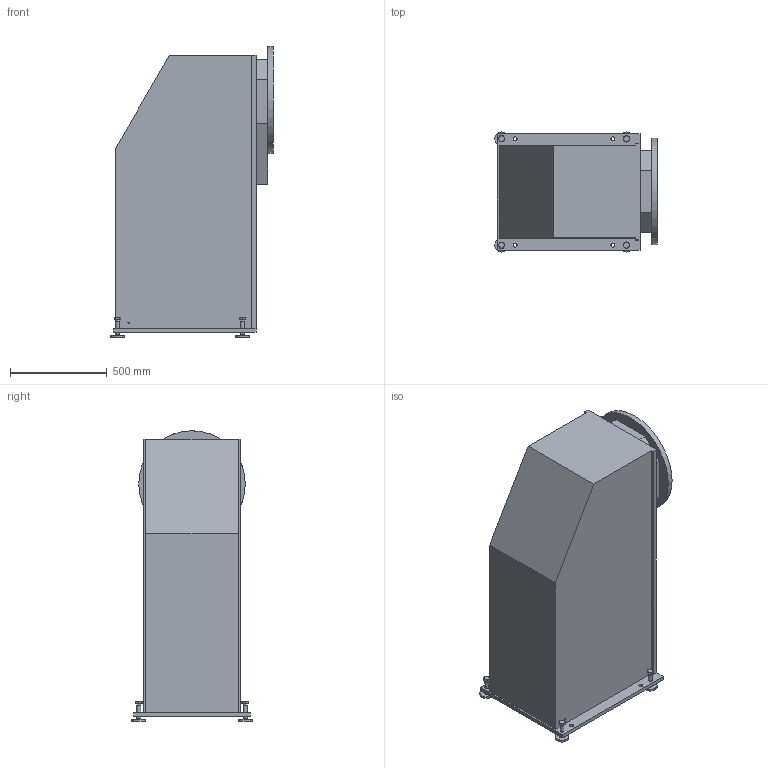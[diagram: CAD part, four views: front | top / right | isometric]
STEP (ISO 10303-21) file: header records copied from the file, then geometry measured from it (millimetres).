
FILE_DESCRIPTION((''),'2;1');
FILE_NAME('S:\Manipulatorer\Produkter\Layout symboler\HSB\114771-101 HSB-1000 SN (STEP).stp','2008-02-04T15:49:29',('Kristian'),(''),'Autodesk Inventor 2008','Autodesk Inventor 2008','');
FILE_SCHEMA(('AUTOMOTIVE_DESIGN { 1 0 10303 214 1 1 1 1 }'));
Length unit declared in the file: millimetre
Products named in the file (2): 114771- HSB-1000 SN (iAssy).iam<No details>; 114771-101 HSB-1000 SN (low-res)
Assembly tree (1 placements, depth 2):
  114771- HSB-1000 SN (iAssy).iam<No details>
    114771-101 HSB-1000 SN (low-res)
Bounding box: 839 x 620 x 1500 mm (x, y, z)
Volume: 490181159.6 mm3; surface area: 4529429.4 mm2
Topology: 5 solids, 5 shells, 157 faces, 331 edges, 219 vertices
Faces by surface type: plane 94, cylinder 27, bspline 20, cone 16
Full cylindrical faces by diameter (mm): 20 x12, 28.19 x4, 70 x4, 550 x1
Entity records: 4309 total; most frequent: CARTESIAN_POINT 1007, DIRECTION 614, ORIENTED_EDGE 544, EDGE_CURVE 272, EDGE_LOOP 246, AXIS2_PLACEMENT_3D 239, VERTEX_POINT 204, FACE_OUTER_BOUND 157
